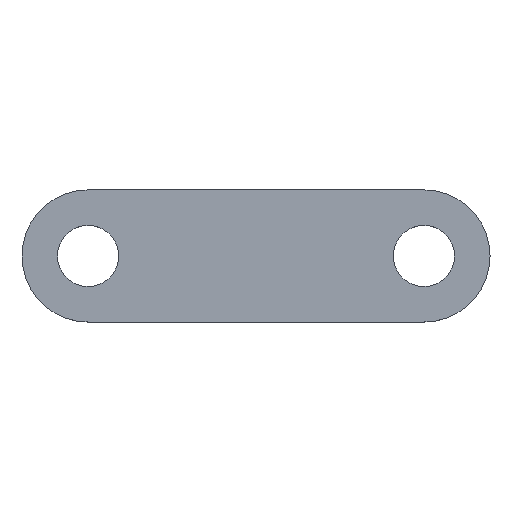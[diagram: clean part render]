
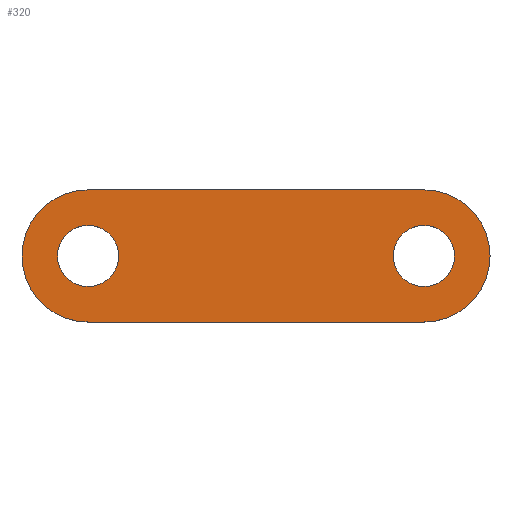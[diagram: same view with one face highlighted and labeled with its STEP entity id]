
A CAD part, top view. The second image highlights one B-rep face of the part: STEP entity #320.
In plain terms, the highlighted planar face has unit normal (0, 0, 1).
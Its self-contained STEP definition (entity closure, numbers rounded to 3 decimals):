
#3 = DIRECTION ( 'NONE',  ( 0., 0., 1. ) ) ;
#13 = CARTESIAN_POINT ( 'NONE',  ( -60.303, 0., 8. ) ) ;
#15 = EDGE_CURVE ( 'NONE', #132, #345, #237, .T. ) ;
#16 = FACE_BOUND ( 'NONE', #192, .T. ) ;
#20 = VECTOR ( 'NONE', #36, 1000. ) ;
#21 = EDGE_CURVE ( 'NONE', #103, #331, #78, .T. ) ;
#23 = VERTEX_POINT ( 'NONE', #141 ) ;
#29 = FACE_BOUND ( 'NONE', #251, .T. ) ;
#34 = AXIS2_PLACEMENT_3D ( 'NONE', #124, #153, #249 ) ;
#36 = DIRECTION ( 'NONE',  ( -1., 0., 0. ) ) ;
#37 = VERTEX_POINT ( 'NONE', #84 ) ;
#39 = DIRECTION ( 'NONE',  ( 1., 0., 0. ) ) ;
#47 = DIRECTION ( 'NONE',  ( 1., 0., 0. ) ) ;
#49 = AXIS2_PLACEMENT_3D ( 'NONE', #342, #96, #47 ) ;
#50 = ORIENTED_EDGE ( 'NONE', *, *, #21, .T. ) ;
#63 = CARTESIAN_POINT ( 'NONE',  ( -40.303, 0., 8. ) ) ;
#64 = CARTESIAN_POINT ( 'NONE',  ( -40.303, 0., 8. ) ) ;
#68 = DIRECTION ( 'NONE',  ( 0., 0., 1. ) ) ;
#74 = CIRCLE ( 'NONE', #228, 9.25 ) ;
#78 = CIRCLE ( 'NONE', #154, 20. ) ;
#84 = CARTESIAN_POINT ( 'NONE',  ( 52.047, 0., 8. ) ) ;
#90 = FACE_OUTER_BOUND ( 'NONE', #359, .T. ) ;
#96 = DIRECTION ( 'NONE',  ( 0., 0., 1. ) ) ;
#103 = VERTEX_POINT ( 'NONE', #204 ) ;
#105 = ORIENTED_EDGE ( 'NONE', *, *, #371, .F. ) ;
#112 = DIRECTION ( 'NONE',  ( 1., 0., 0. ) ) ;
#114 = VERTEX_POINT ( 'NONE', #293 ) ;
#118 = DIRECTION ( 'NONE',  ( 0., 0., 1. ) ) ;
#121 = EDGE_CURVE ( 'NONE', #281, #132, #351, .T. ) ;
#124 = CARTESIAN_POINT ( 'NONE',  ( -40.303, 0., 8. ) ) ;
#132 = VERTEX_POINT ( 'NONE', #363 ) ;
#134 = EDGE_CURVE ( 'NONE', #23, #140, #74, .T. ) ;
#137 = VECTOR ( 'NONE', #177, 1000. ) ;
#138 = EDGE_CURVE ( 'NONE', #140, #23, #264, .T. ) ;
#140 = VERTEX_POINT ( 'NONE', #271 ) ;
#141 = CARTESIAN_POINT ( 'NONE',  ( -31.053, 0., 8. ) ) ;
#148 = PLANE ( 'NONE',  #34 ) ;
#153 = DIRECTION ( 'NONE',  ( 0., 0., 1. ) ) ;
#154 = AXIS2_PLACEMENT_3D ( 'NONE', #358, #172, #384 ) ;
#164 = LINE ( 'NONE', #326, #20 ) ;
#166 = CIRCLE ( 'NONE', #49, 9.25 ) ;
#172 = DIRECTION ( 'NONE',  ( 0., 0., 1. ) ) ;
#177 = DIRECTION ( 'NONE',  ( 1., 0., 0. ) ) ;
#178 = DIRECTION ( 'NONE',  ( 0., 0., 1. ) ) ;
#192 = EDGE_LOOP ( 'NONE', ( #105, #352 ) ) ;
#196 = EDGE_CURVE ( 'NONE', #114, #37, #227, .T. ) ;
#204 = CARTESIAN_POINT ( 'NONE',  ( -40.303, 20., 8. ) ) ;
#217 = CARTESIAN_POINT ( 'NONE',  ( 61.297, 20., 8. ) ) ;
#227 = CIRCLE ( 'NONE', #259, 9.25 ) ;
#228 = AXIS2_PLACEMENT_3D ( 'NONE', #64, #3, #39 ) ;
#237 = CIRCLE ( 'NONE', #273, 20. ) ;
#242 = CARTESIAN_POINT ( 'NONE',  ( -40.303, -20., 8. ) ) ;
#248 = AXIS2_PLACEMENT_3D ( 'NONE', #297, #118, #332 ) ;
#249 = DIRECTION ( 'NONE',  ( 1., 0., 0. ) ) ;
#251 = EDGE_LOOP ( 'NONE', ( #294, #254 ) ) ;
#254 = ORIENTED_EDGE ( 'NONE', *, *, #134, .F. ) ;
#256 = CIRCLE ( 'NONE', #329, 20. ) ;
#259 = AXIS2_PLACEMENT_3D ( 'NONE', #268, #68, #267 ) ;
#264 = CIRCLE ( 'NONE', #248, 9.25 ) ;
#267 = DIRECTION ( 'NONE',  ( 1., 0., 0. ) ) ;
#268 = CARTESIAN_POINT ( 'NONE',  ( 61.297, 0., 8. ) ) ;
#271 = CARTESIAN_POINT ( 'NONE',  ( -49.553, 0., 8. ) ) ;
#273 = AXIS2_PLACEMENT_3D ( 'NONE', #292, #325, #112 ) ;
#276 = ORIENTED_EDGE ( 'NONE', *, *, #15, .T. ) ;
#281 = VERTEX_POINT ( 'NONE', #242 ) ;
#284 = ORIENTED_EDGE ( 'NONE', *, *, #310, .T. ) ;
#292 = CARTESIAN_POINT ( 'NONE',  ( 61.297, 0., 8. ) ) ;
#293 = CARTESIAN_POINT ( 'NONE',  ( 70.547, 0., 8. ) ) ;
#294 = ORIENTED_EDGE ( 'NONE', *, *, #138, .F. ) ;
#297 = CARTESIAN_POINT ( 'NONE',  ( -40.303, 0., 8. ) ) ;
#310 = EDGE_CURVE ( 'NONE', #331, #281, #256, .T. ) ;
#318 = EDGE_CURVE ( 'NONE', #345, #103, #164, .T. ) ;
#320 = ADVANCED_FACE ( 'NONE', ( #29, #90, #16 ), #148, .T. ) ;
#325 = DIRECTION ( 'NONE',  ( 0., 0., 1. ) ) ;
#326 = CARTESIAN_POINT ( 'NONE',  ( -40.303, 20., 8. ) ) ;
#329 = AXIS2_PLACEMENT_3D ( 'NONE', #63, #178, #338 ) ;
#330 = ORIENTED_EDGE ( 'NONE', *, *, #318, .T. ) ;
#331 = VERTEX_POINT ( 'NONE', #13 ) ;
#332 = DIRECTION ( 'NONE',  ( 1., 0., 0. ) ) ;
#338 = DIRECTION ( 'NONE',  ( 1., 0., 0. ) ) ;
#342 = CARTESIAN_POINT ( 'NONE',  ( 61.297, 0., 8. ) ) ;
#345 = VERTEX_POINT ( 'NONE', #217 ) ;
#351 = LINE ( 'NONE', #354, #137 ) ;
#352 = ORIENTED_EDGE ( 'NONE', *, *, #196, .F. ) ;
#354 = CARTESIAN_POINT ( 'NONE',  ( -40.303, -20., 8. ) ) ;
#358 = CARTESIAN_POINT ( 'NONE',  ( -40.303, 0., 8. ) ) ;
#359 = EDGE_LOOP ( 'NONE', ( #50, #284, #374, #276, #330 ) ) ;
#363 = CARTESIAN_POINT ( 'NONE',  ( 61.297, -20., 8. ) ) ;
#371 = EDGE_CURVE ( 'NONE', #37, #114, #166, .T. ) ;
#374 = ORIENTED_EDGE ( 'NONE', *, *, #121, .T. ) ;
#384 = DIRECTION ( 'NONE',  ( 1., 0., 0. ) ) ;
